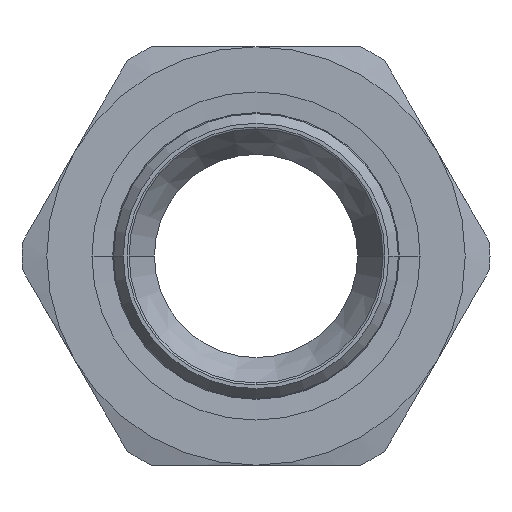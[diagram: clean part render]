
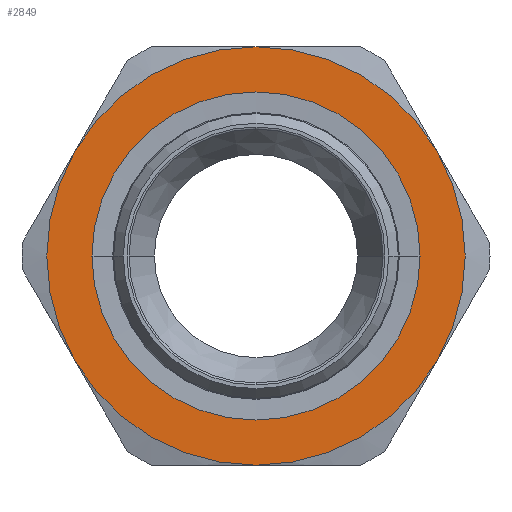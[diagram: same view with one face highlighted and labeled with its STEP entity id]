
A CAD part, left-side view. The second image highlights one B-rep face of the part: STEP entity #2849.
In plain terms, the highlighted planar face has unit normal (-1, 0, 0) as drawn and (0, 0, 1) by its records, which use the part's own axes.
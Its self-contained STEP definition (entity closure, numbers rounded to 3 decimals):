
#1176=CARTESIAN_POINT('',(0.,-27.45,8.5));
#1177=VERTEX_POINT('',#1176);
#1193=CARTESIAN_POINT('',(0.,27.45,8.5));
#1194=VERTEX_POINT('',#1193);
#1201=CARTESIAN_POINT('',(0.,0.,8.5));
#1202=DIRECTION('',(0.0,0.0,-1.0));
#1203=DIRECTION('',(0.0,-1.0,0.0));
#1204=AXIS2_PLACEMENT_3D('',#1201,#1202,#1203);
#1205=CIRCLE('',#1204,27.45);
#1206=EDGE_CURVE('',#1177,#1194,#1205,.T.);
#1663=CARTESIAN_POINT('',(0.,0.,8.5));
#1664=DIRECTION('',(0.0,0.0,-1.0));
#1665=DIRECTION('',(0.0,-1.0,0.0));
#1666=AXIS2_PLACEMENT_3D('',#1663,#1664,#1665);
#1667=CIRCLE('',#1666,27.45);
#1668=EDGE_CURVE('',#1194,#1177,#1667,.T.);
#2222=CARTESIAN_POINT('',(17.5,-30.311,8.5));
#2223=VERTEX_POINT('',#2222);
#2237=CARTESIAN_POINT('',(-17.5,-30.311,8.5));
#2238=VERTEX_POINT('',#2237);
#2239=CARTESIAN_POINT('',(0.,0.0,8.5));
#2240=DIRECTION('',(0.0,0.0,1.0));
#2241=DIRECTION('',(1.0,0.0,0.0));
#2242=AXIS2_PLACEMENT_3D('',#2239,#2240,#2241);
#2243=CIRCLE('',#2242,35.);
#2244=EDGE_CURVE('',#2238,#2223,#2243,.T.);
#2322=CARTESIAN_POINT('',(-35.0,0.,8.5));
#2323=VERTEX_POINT('',#2322);
#2324=CARTESIAN_POINT('',(0.,0.0,8.5));
#2325=DIRECTION('',(0.0,0.0,1.0));
#2326=DIRECTION('',(1.0,0.0,0.0));
#2327=AXIS2_PLACEMENT_3D('',#2324,#2325,#2326);
#2328=CIRCLE('',#2327,35.);
#2329=EDGE_CURVE('',#2323,#2238,#2328,.T.);
#2406=CARTESIAN_POINT('',(-17.5,30.311,8.5));
#2407=VERTEX_POINT('',#2406);
#2408=CARTESIAN_POINT('',(0.,0.0,8.5));
#2409=DIRECTION('',(0.0,0.0,1.0));
#2410=DIRECTION('',(1.0,0.0,0.0));
#2411=AXIS2_PLACEMENT_3D('',#2408,#2409,#2410);
#2412=CIRCLE('',#2411,35.);
#2413=EDGE_CURVE('',#2407,#2323,#2412,.T.);
#2490=CARTESIAN_POINT('',(17.5,30.311,8.5));
#2491=VERTEX_POINT('',#2490);
#2492=CARTESIAN_POINT('',(0.,0.0,8.5));
#2493=DIRECTION('',(0.0,0.0,1.0));
#2494=DIRECTION('',(1.0,0.0,0.0));
#2495=AXIS2_PLACEMENT_3D('',#2492,#2493,#2494);
#2496=CIRCLE('',#2495,35.);
#2497=EDGE_CURVE('',#2491,#2407,#2496,.T.);
#2575=CARTESIAN_POINT('',(35.0,0.0,8.5));
#2576=VERTEX_POINT('',#2575);
#2577=CARTESIAN_POINT('',(0.,0.0,8.5));
#2578=DIRECTION('',(0.0,0.0,1.0));
#2579=DIRECTION('',(1.0,0.0,0.0));
#2580=AXIS2_PLACEMENT_3D('',#2577,#2578,#2579);
#2581=CIRCLE('',#2580,35.);
#2582=EDGE_CURVE('',#2576,#2491,#2581,.T.);
#2659=CARTESIAN_POINT('',(0.,0.0,8.5));
#2660=DIRECTION('',(0.0,0.0,1.0));
#2661=DIRECTION('',(1.0,0.0,0.0));
#2662=AXIS2_PLACEMENT_3D('',#2659,#2660,#2661);
#2663=CIRCLE('',#2662,35.);
#2664=EDGE_CURVE('',#2223,#2576,#2663,.T.);
#2832=CARTESIAN_POINT('',(0.,0.,8.5));
#2833=DIRECTION('',(0.0,0.0,1.0));
#2834=DIRECTION('',(1.0,0.0,0.0));
#2835=AXIS2_PLACEMENT_3D('',#2832,#2833,#2834);
#2836=PLANE('',#2835);
#2837=ORIENTED_EDGE('',*,*,#2664,.T.);
#2838=ORIENTED_EDGE('',*,*,#2582,.T.);
#2839=ORIENTED_EDGE('',*,*,#2497,.T.);
#2840=ORIENTED_EDGE('',*,*,#2413,.T.);
#2841=ORIENTED_EDGE('',*,*,#2329,.T.);
#2842=ORIENTED_EDGE('',*,*,#2244,.T.);
#2843=EDGE_LOOP('',(#2837,#2838,#2839,#2840,#2841,#2842));
#2844=FACE_OUTER_BOUND('',#2843,.T.);
#2845=ORIENTED_EDGE('',*,*,#1206,.T.);
#2846=ORIENTED_EDGE('',*,*,#1668,.T.);
#2847=EDGE_LOOP('',(#2845,#2846));
#2848=FACE_BOUND('',#2847,.T.);
#2849=ADVANCED_FACE('',(#2844,#2848),#2836,.T.);
